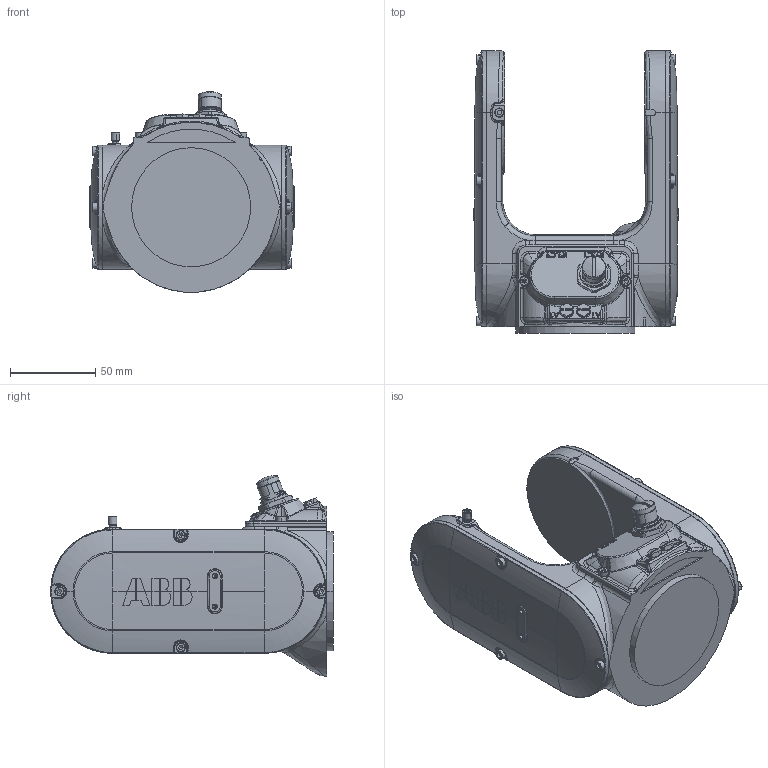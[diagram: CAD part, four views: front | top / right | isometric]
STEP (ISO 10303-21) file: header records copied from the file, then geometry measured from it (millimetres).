
FILE_DESCRIPTION (( 'STEP AP214' ), '1' );
FILE_NAME ('Link4.STEP', '2022-06-21T02:14:59', ( '' ), ( '' ), 'SwSTEP 2.0', 'SolidWorks 2020', '' );
FILE_SCHEMA (( 'AUTOMOTIVE_DESIGN' ));
Length unit declared in the file: millimetre
Products named in the file (1): Link4
Bounding box: 120 x 166.2 x 117.92 mm (x, y, z)
Volume: 754087.9 mm3; surface area: 74534.1 mm2
Topology: 1 solids, 1 shells, 1213 faces, 3017 edges, 1850 vertices
Faces by surface type: plane 512, bspline 324, cylinder 204, torus 82, cone 72, sphere 19
Entity records: 58365 total; most frequent: CARTESIAN_POINT 30657, ORIENTED_EDGE 5982, DIRECTION 4733, EDGE_CURVE 2991, VERTEX_POINT 1850, AXIS2_PLACEMENT_3D 1736, EDGE_LOOP 1283, LINE 1261
